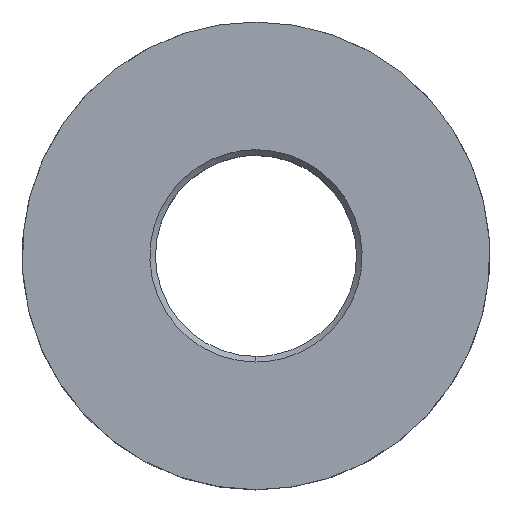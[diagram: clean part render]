
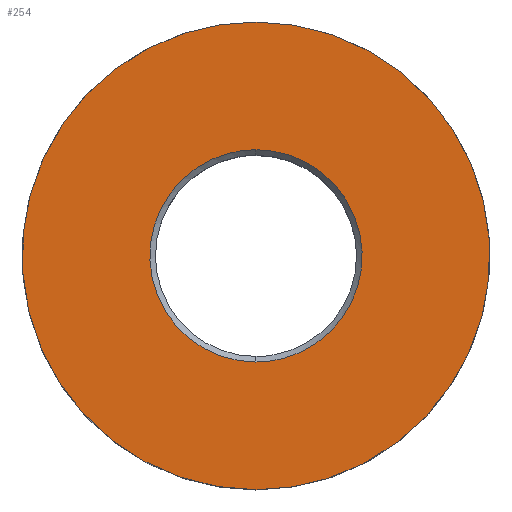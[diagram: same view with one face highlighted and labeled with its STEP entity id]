
A CAD part, top view. The second image highlights one B-rep face of the part: STEP entity #254.
In plain terms, the highlighted planar face has unit normal (0, 0, 1).
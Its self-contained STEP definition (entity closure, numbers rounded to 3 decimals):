
#8 = B_SPLINE_CURVE_WITH_KNOTS ( 'NONE', 8,
 ( #140, #64, #319, #257, #34, #391, #324, #190, #104 ),
 .UNSPECIFIED., .F., .F.,
 ( 9, 9 ),
 ( 0., 0.156 ),
 .UNSPECIFIED. ) ;
#15 = FACE_OUTER_BOUND ( 'NONE', #212, .T. ) ;
#19 = CARTESIAN_POINT ( 'NONE',  ( 8.914, 22.7, 33.4 ) ) ;
#24 = CARTESIAN_POINT ( 'NONE',  ( 8.914, -22.7, 33.4 ) ) ;
#25 = CARTESIAN_POINT ( 'NONE',  ( -54.29, 23.574, 33.4 ) ) ;
#32 = ORIENTED_EDGE ( 'NONE', *, *, #284, .T. ) ;
#34 = CARTESIAN_POINT ( 'NONE',  ( 60.089, 0.005, 33.4 ) ) ;
#41 = EDGE_CURVE ( 'NONE', #214, #137, #8, .T. ) ;
#53 = CARTESIAN_POINT ( 'NONE',  ( 24.648, 10.7, 33.4 ) ) ;
#64 = CARTESIAN_POINT ( 'NONE',  ( 19.635, 50., 33.4 ) ) ;
#67 = CARTESIAN_POINT ( 'NONE',  ( 0., 50., 33.4 ) ) ;
#82 = CARTESIAN_POINT ( 'NONE',  ( -39.27, 41.189, 33.4 ) ) ;
#98 = B_SPLINE_CURVE_WITH_KNOTS ( 'NONE', 8,
 ( #150, #405, #182, #302, #332, #25, #82, #204, #335 ),
 .UNSPECIFIED., .F., .F.,
 ( 9, 9 ),
 ( 0., 0.156 ),
 .UNSPECIFIED. ) ;
#104 = CARTESIAN_POINT ( 'NONE',  ( 0., -50., 33.4 ) ) ;
#112 = CARTESIAN_POINT ( 'NONE',  ( -24.648, -10.7, 33.4 ) ) ;
#137 = VERTEX_POINT ( 'NONE', #161 ) ;
#140 = CARTESIAN_POINT ( 'NONE',  ( 0., 50., 33.4 ) ) ;
#150 = CARTESIAN_POINT ( 'NONE',  ( 0., -50., 33.4 ) ) ;
#151 = CARTESIAN_POINT ( 'NONE',  ( -17.828, 18.7, 33.4 ) ) ;
#161 = CARTESIAN_POINT ( 'NONE',  ( 0., -50., 33.4 ) ) ;
#171 = CARTESIAN_POINT ( 'NONE',  ( 0., 22.7, 33.4 ) ) ;
#177 = FACE_BOUND ( 'NONE', #184, .T. ) ;
#182 = CARTESIAN_POINT ( 'NONE',  ( -39.27, -41.188, 33.4 ) ) ;
#183 = B_SPLINE_CURVE_WITH_KNOTS ( 'NONE', 8,
 ( #207, #19, #333, #53, #370, #401, #209, #24, #368 ),
 .UNSPECIFIED., .F., .F.,
 ( 9, 9 ),
 ( 0., 0.072 ),
 .UNSPECIFIED. ) ;
#184 = EDGE_LOOP ( 'NONE', ( #32, #217 ) ) ;
#185 = AXIS2_PLACEMENT_3D ( 'NONE', #268, #237, #396 ) ;
#188 = ORIENTED_EDGE ( 'NONE', *, *, #41, .F. ) ;
#190 = CARTESIAN_POINT ( 'NONE',  ( 19.635, -50., 33.4 ) ) ;
#204 = CARTESIAN_POINT ( 'NONE',  ( -19.635, 50., 33.4 ) ) ;
#207 = CARTESIAN_POINT ( 'NONE',  ( 0., 22.7, 33.4 ) ) ;
#209 = CARTESIAN_POINT ( 'NONE',  ( 17.828, -18.7, 33.4 ) ) ;
#210 = B_SPLINE_CURVE_WITH_KNOTS ( 'NONE', 8,
 ( #229, #234, #320, #112, #327, #231, #151, #365, #171 ),
 .UNSPECIFIED., .F., .F.,
 ( 9, 9 ),
 ( 0., 0.072 ),
 .UNSPECIFIED. ) ;
#212 = EDGE_LOOP ( 'NONE', ( #188, #345 ) ) ;
#214 = VERTEX_POINT ( 'NONE', #67 ) ;
#217 = ORIENTED_EDGE ( 'NONE', *, *, #404, .T. ) ;
#229 = CARTESIAN_POINT ( 'NONE',  ( 0., -22.7, 33.4 ) ) ;
#231 = CARTESIAN_POINT ( 'NONE',  ( -24.648, 10.703, 33.4 ) ) ;
#233 = CARTESIAN_POINT ( 'NONE',  ( 0., -22.7, 33.4 ) ) ;
#234 = CARTESIAN_POINT ( 'NONE',  ( -8.914, -22.7, 33.4 ) ) ;
#237 = DIRECTION ( 'NONE',  ( 0., 0., 1. ) ) ;
#239 = VERTEX_POINT ( 'NONE', #344 ) ;
#254 = ADVANCED_FACE ( 'NONE', ( #177, #15 ), #293, .T. ) ;
#257 = CARTESIAN_POINT ( 'NONE',  ( 54.29, 23.568, 33.4 ) ) ;
#268 = CARTESIAN_POINT ( 'NONE',  ( 52., -52., 33.4 ) ) ;
#284 = EDGE_CURVE ( 'NONE', #376, #239, #210, .T. ) ;
#293 = PLANE ( 'NONE',  #185 ) ;
#302 = CARTESIAN_POINT ( 'NONE',  ( -54.29, -23.568, 33.4 ) ) ;
#319 = CARTESIAN_POINT ( 'NONE',  ( 39.27, 41.188, 33.4 ) ) ;
#320 = CARTESIAN_POINT ( 'NONE',  ( -17.828, -18.7, 33.4 ) ) ;
#324 = CARTESIAN_POINT ( 'NONE',  ( 39.27, -41.189, 33.4 ) ) ;
#327 = CARTESIAN_POINT ( 'NONE',  ( -27.281, -0.002, 33.4 ) ) ;
#332 = CARTESIAN_POINT ( 'NONE',  ( -60.089, -0.005, 33.4 ) ) ;
#333 = CARTESIAN_POINT ( 'NONE',  ( 17.828, 18.7, 33.4 ) ) ;
#335 = CARTESIAN_POINT ( 'NONE',  ( 0., 50., 33.4 ) ) ;
#344 = CARTESIAN_POINT ( 'NONE',  ( 0., 22.7, 33.4 ) ) ;
#345 = ORIENTED_EDGE ( 'NONE', *, *, #406, .F. ) ;
#365 = CARTESIAN_POINT ( 'NONE',  ( -8.914, 22.7, 33.4 ) ) ;
#368 = CARTESIAN_POINT ( 'NONE',  ( 0., -22.7, 33.4 ) ) ;
#370 = CARTESIAN_POINT ( 'NONE',  ( 27.281, 0.002, 33.4 ) ) ;
#376 = VERTEX_POINT ( 'NONE', #233 ) ;
#391 = CARTESIAN_POINT ( 'NONE',  ( 54.29, -23.574, 33.4 ) ) ;
#396 = DIRECTION ( 'NONE',  ( 0., 1., 0. ) ) ;
#401 = CARTESIAN_POINT ( 'NONE',  ( 24.648, -10.703, 33.4 ) ) ;
#404 = EDGE_CURVE ( 'NONE', #239, #376, #183, .T. ) ;
#405 = CARTESIAN_POINT ( 'NONE',  ( -19.635, -50., 33.4 ) ) ;
#406 = EDGE_CURVE ( 'NONE', #137, #214, #98, .T. ) ;
